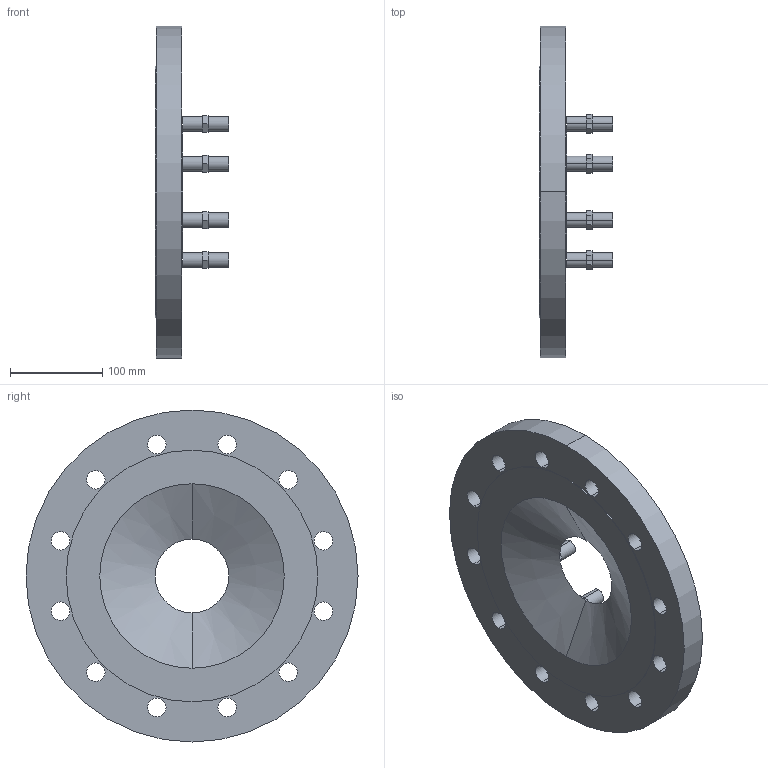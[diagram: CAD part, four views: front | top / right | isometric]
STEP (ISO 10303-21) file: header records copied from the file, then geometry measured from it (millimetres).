
FILE_DESCRIPTION(('STEP AP214'),'1');
FILE_NAME('S:/EK/USER/CAT6/3DHomepage_27-04-2012/VDI-Rohrsysteme_und_Stahlrohre/0802_(8110)/0802_PN16_DN200_DN80.STP','2013-01-25T07:26:16',(' '),(' '),'Spatial InterOp 3D',' ',' ');
FILE_SCHEMA(('automotive_design'));
Length unit declared in the file: millimetre
Products named in the file (18): 3D-Objekt
Bounding box: 80 x 360 x 360 mm (x, y, z)
Volume: 2423569.7 mm3; surface area: 322213.5 mm2
Topology: 18 solids, 18 shells, 135 faces, 294 edges, 196 vertices
Faces by surface type: plane 85, cylinder 48, cone 2
Entity records: 5260 total; most frequent: DIRECTION 700, CARTESIAN_POINT 643, ORIENTED_EDGE 588, EDGE_CURVE 294, AXIS2_PLACEMENT_3D 253, VERTEX_POINT 196, LINE 194, VECTOR 194
